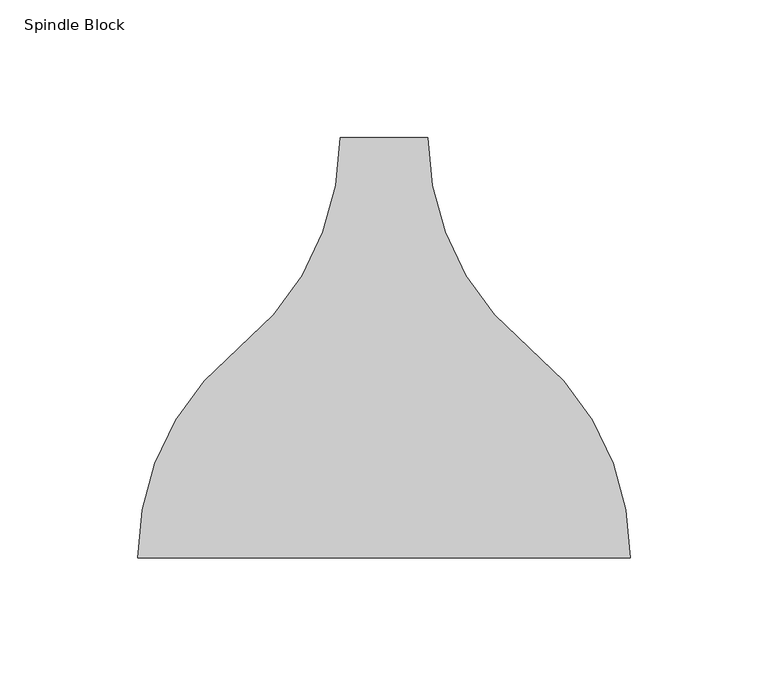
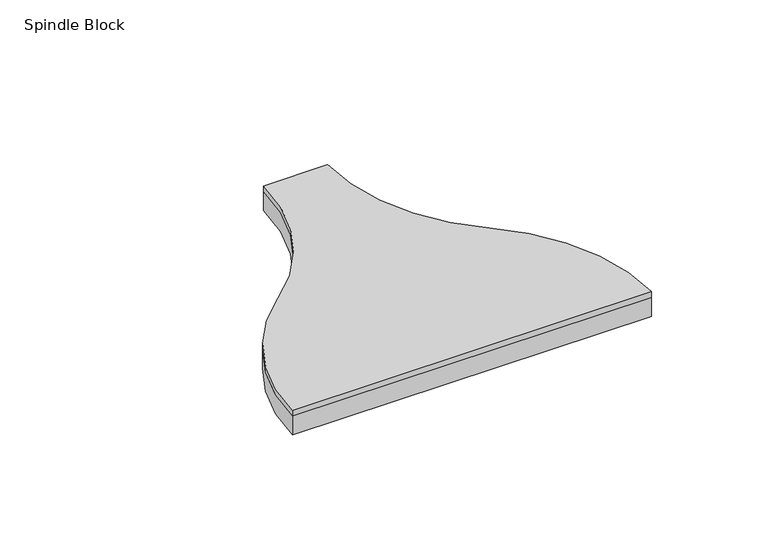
"""IFC4 building model written with IfcOpenShell, lengths in millimetres: proxy geometry, FilzFelt_Spindle_Block : Spindle Block."""

from ifc_helpers import new_model, si_unit, point, frame, frame_2d, origin, origin_with_axes, place, context, project, spatial, polyline, circle_curve, trimmed, segment, composite_curve, outline, extrude, source, transform, mapped, element, save


def spindle_block_164295e7(model_context):
    return source(origin(), model_context, "Body", "SweptSolid", [
        extrude(outline(composite_curve([segment(trimmed(circle_curve(frame_2d((113.4981354, 152.5)), 97.5776355), [point((15.9204999, 152.5))], [point((52.6102676, 76.25))], True, "CARTESIAN"), True, "CONTINUOUS"), segment(trimmed(circle_curve(frame_2d((-8.2776003, 0.0)), 97.5776355), [point((52.6102676, 76.25))], [point((89.3000352, 0.0))], False, "CARTESIAN"), True, "CONTINUOUS"), segment(polyline([(89.3000352, 0.0), (-89.3000352, 0.0)]), True, "CONTINUOUS"), segment(trimmed(circle_curve(frame_2d((8.2776003, 0.0)), 97.5776355), [point((-89.3000352, 0.0))], [point((-52.6102676, 76.25))], False, "CARTESIAN"), True, "CONTINUOUS"), segment(trimmed(circle_curve(frame_2d((-113.4981354, 152.5)), 97.5776355), [point((-52.6102676, 76.25))], [point((-15.9204999, 152.5))], True, "CARTESIAN"), True, "CONTINUOUS"), segment(polyline([(-15.9204999, 152.5), (15.9204999, 152.5)]), True, "CONTINUOUS")], self_intersect=False)), frame((0.0, 0.0, 10.0210937), z_axis=(0.0, 0.0, 1.0), x_axis=(1.0, 0.0, 0.0)), (0.0, 0.0, 1.0), 2.9765625),
        extrude(outline(composite_curve([segment(trimmed(circle_curve(frame_2d((113.4981354, 152.5)), 97.5776355), [point((15.9204999, 152.5))], [point((52.6102676, 76.25))], True, "CARTESIAN"), True, "CONTINUOUS"), segment(trimmed(circle_curve(frame_2d((-8.2776003, 0.0)), 97.5776355), [point((52.6102676, 76.25))], [point((89.3000352, 0.0))], False, "CARTESIAN"), True, "CONTINUOUS"), segment(polyline([(89.3000352, 0.0), (-89.3000352, 0.0)]), True, "CONTINUOUS"), segment(trimmed(circle_curve(frame_2d((8.2776003, 0.0)), 97.5776355), [point((-89.3000352, 0.0))], [point((-52.6102676, 76.25))], False, "CARTESIAN"), True, "CONTINUOUS"), segment(trimmed(circle_curve(frame_2d((-113.4981354, 152.5)), 97.5776355), [point((-52.6102676, 76.25))], [point((-15.9204999, 152.5))], True, "CARTESIAN"), True, "CONTINUOUS"), segment(polyline([(-15.9204999, 152.5), (15.9204999, 152.5)]), True, "CONTINUOUS")], self_intersect=False)), origin_with_axes(), (0.0, 0.0, 1.0), 10.0210938),
    ])


if __name__ == "__main__":
    model = new_model("IFC4")
    model_context = context("Model", 3, world=origin())
    ifc_project = project(units=[si_unit("LENGTHUNIT", "METRE", prefix="MILLI")], contexts=[model_context])
    site = spatial("IfcSite", under=ifc_project)
    building = spatial("IfcBuilding", under=site)
    placement = place(None, origin())
    spindle_block_shape = spindle_block_164295e7(model_context)
    element("IfcBuildingElementProxy", 1, Name="FilzFelt_Spindle_Block : Spindle Block", ObjectType="FilzFelt_Spindle_Block : Spindle Block", at=placement, inside=building, context=model_context, shape_type="MappedRepresentation", body=[
        mapped(spindle_block_shape, transform((0.0, 0.0, 0.0), x_axis=(1.0, 0.0, 0.0), y_axis=(0.0, 1.0, 0.0), z_axis=(0.0, 0.0, 1.0))),
    ])
    save(model, "model.ifc")
